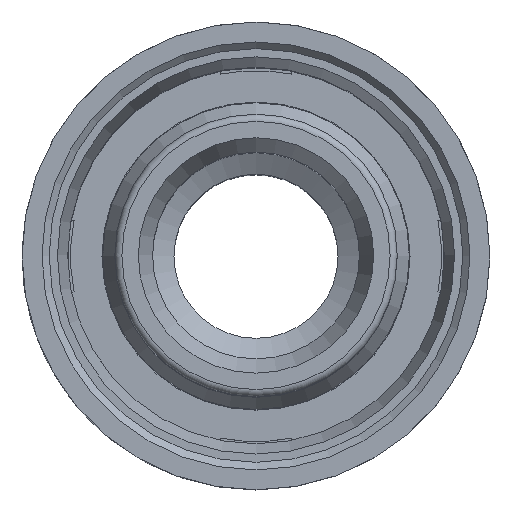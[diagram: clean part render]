
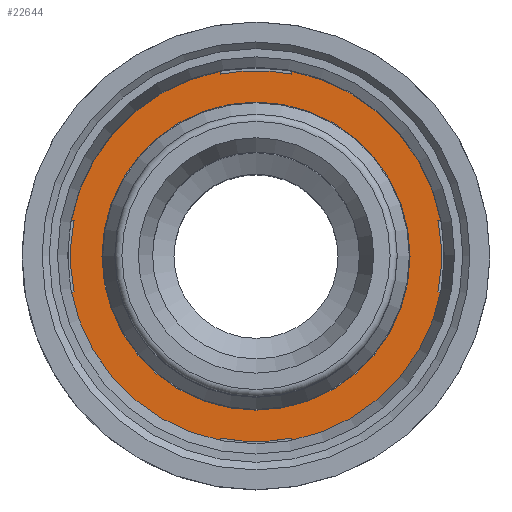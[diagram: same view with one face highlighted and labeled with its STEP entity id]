
A CAD part, top view. The second image highlights one B-rep face of the part: STEP entity #22644.
In plain terms, the highlighted planar face has unit normal (0, 0, 1) as drawn and (0, 0, -1) by its records, which use the part's own axes.
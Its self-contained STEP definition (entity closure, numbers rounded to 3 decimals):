
#136=FACE_BOUND('',#5709,.T.);
#310=PLANE('',#24177);
#859=LINE('',#34599,#2212);
#862=LINE('',#34610,#2215);
#869=LINE('',#34625,#2222);
#875=LINE('',#34641,#2228);
#881=LINE('',#34654,#2234);
#887=LINE('',#34667,#2240);
#893=LINE('',#34683,#2246);
#899=LINE('',#34699,#2252);
#2212=VECTOR('',#26044,10.);
#2215=VECTOR('',#26055,10.);
#2222=VECTOR('',#26064,10.);
#2228=VECTOR('',#26078,10.);
#2234=VECTOR('',#26086,10.);
#2240=VECTOR('',#26094,10.);
#2246=VECTOR('',#26108,10.);
#2252=VECTOR('',#26122,10.);
#4386=FACE_OUTER_BOUND('',#5708,.T.);
#5708=EDGE_LOOP('',(#17125,#17126,#17127,#17128,#17129,#17130,#17131,#17132,
#17133,#17134,#17135,#17136,#17137,#17138,#17139,#17140));
#5709=EDGE_LOOP('',(#17141,#17142));
#6959=CIRCLE('',#24117,13.);
#6961=CIRCLE('',#24122,13.);
#6963=CIRCLE('',#24128,13.);
#6965=CIRCLE('',#24132,13.);
#6982=CIRCLE('',#24156,13.2);
#6983=CIRCLE('',#24157,13.2);
#6984=CIRCLE('',#24158,13.2);
#6987=CIRCLE('',#24161,13.2);
#6996=CIRCLE('',#24175,10.8);
#6997=CIRCLE('',#24176,10.8);
#9606=VERTEX_POINT('',#34589);
#9610=VERTEX_POINT('',#34597);
#9611=VERTEX_POINT('',#34601);
#9613=VERTEX_POINT('',#34607);
#9620=VERTEX_POINT('',#34622);
#9621=VERTEX_POINT('',#34624);
#9623=VERTEX_POINT('',#34630);
#9627=VERTEX_POINT('',#34640);
#9632=VERTEX_POINT('',#34651);
#9633=VERTEX_POINT('',#34653);
#9638=VERTEX_POINT('',#34664);
#9639=VERTEX_POINT('',#34666);
#9644=VERTEX_POINT('',#34680);
#9645=VERTEX_POINT('',#34682);
#9647=VERTEX_POINT('',#34688);
#9651=VERTEX_POINT('',#34698);
#9666=VERTEX_POINT('',#34759);
#9667=VERTEX_POINT('',#34761);
#12349=EDGE_CURVE('',#9606,#9610,#859,.T.);
#12350=EDGE_CURVE('',#9610,#9611,#6959,.T.);
#12354=EDGE_CURVE('',#9611,#9613,#862,.T.);
#12361=EDGE_CURVE('',#9621,#9620,#869,.T.);
#12364=EDGE_CURVE('',#9623,#9621,#6961,.T.);
#12369=EDGE_CURVE('',#9627,#9623,#875,.T.);
#12375=EDGE_CURVE('',#9633,#9632,#881,.T.);
#12381=EDGE_CURVE('',#9639,#9638,#887,.T.);
#12384=EDGE_CURVE('',#9632,#9639,#6963,.T.);
#12389=EDGE_CURVE('',#9645,#9644,#893,.T.);
#12392=EDGE_CURVE('',#9647,#9645,#6965,.T.);
#12397=EDGE_CURVE('',#9651,#9647,#899,.T.);
#12415=EDGE_CURVE('',#9606,#9620,#6982,.T.);
#12416=EDGE_CURVE('',#9627,#9644,#6983,.T.);
#12417=EDGE_CURVE('',#9651,#9638,#6984,.T.);
#12421=EDGE_CURVE('',#9633,#9613,#6987,.T.);
#12433=EDGE_CURVE('',#9667,#9666,#6996,.T.);
#12434=EDGE_CURVE('',#9666,#9667,#6997,.T.);
#17125=ORIENTED_EDGE('',*,*,#12354,.T.);
#17126=ORIENTED_EDGE('',*,*,#12421,.F.);
#17127=ORIENTED_EDGE('',*,*,#12375,.T.);
#17128=ORIENTED_EDGE('',*,*,#12384,.T.);
#17129=ORIENTED_EDGE('',*,*,#12381,.T.);
#17130=ORIENTED_EDGE('',*,*,#12417,.F.);
#17131=ORIENTED_EDGE('',*,*,#12397,.T.);
#17132=ORIENTED_EDGE('',*,*,#12392,.T.);
#17133=ORIENTED_EDGE('',*,*,#12389,.T.);
#17134=ORIENTED_EDGE('',*,*,#12416,.F.);
#17135=ORIENTED_EDGE('',*,*,#12369,.T.);
#17136=ORIENTED_EDGE('',*,*,#12364,.T.);
#17137=ORIENTED_EDGE('',*,*,#12361,.T.);
#17138=ORIENTED_EDGE('',*,*,#12415,.F.);
#17139=ORIENTED_EDGE('',*,*,#12349,.T.);
#17140=ORIENTED_EDGE('',*,*,#12350,.T.);
#17141=ORIENTED_EDGE('',*,*,#12433,.T.);
#17142=ORIENTED_EDGE('',*,*,#12434,.T.);
#22644=ADVANCED_FACE('',(#4386,#136),#310,.T.);
#24117=AXIS2_PLACEMENT_3D('',#34602,#26047,#26048);
#24122=AXIS2_PLACEMENT_3D('',#34631,#26069,#26070);
#24128=AXIS2_PLACEMENT_3D('',#34672,#26099,#26100);
#24132=AXIS2_PLACEMENT_3D('',#34689,#26113,#26114);
#24156=AXIS2_PLACEMENT_3D('',#34727,#26167,#26168);
#24157=AXIS2_PLACEMENT_3D('',#34728,#26169,#26170);
#24158=AXIS2_PLACEMENT_3D('',#34729,#26171,#26172);
#24161=AXIS2_PLACEMENT_3D('',#34735,#26178,#26179);
#24175=AXIS2_PLACEMENT_3D('',#34762,#26209,#26210);
#24176=AXIS2_PLACEMENT_3D('',#34763,#26211,#26212);
#24177=AXIS2_PLACEMENT_3D('',#34764,#26213,#26214);
#26044=DIRECTION('',(0.982,0.191,0.));
#26047=DIRECTION('center_axis',(0.,0.,-1.));
#26048=DIRECTION('ref_axis',(0.981,-0.192,0.));
#26055=DIRECTION('',(-0.982,0.191,0.));
#26064=DIRECTION('',(-0.191,-0.982,0.));
#26069=DIRECTION('center_axis',(0.,0.,-1.));
#26070=DIRECTION('ref_axis',(0.192,0.981,0.));
#26078=DIRECTION('',(-0.191,0.982,0.));
#26086=DIRECTION('',(0.191,-0.982,0.));
#26094=DIRECTION('',(0.191,0.982,0.));
#26099=DIRECTION('center_axis',(0.,0.,-1.));
#26100=DIRECTION('ref_axis',(-0.192,-0.981,0.));
#26108=DIRECTION('',(0.982,-0.191,0.));
#26113=DIRECTION('center_axis',(0.,0.,-1.));
#26114=DIRECTION('ref_axis',(-0.981,0.192,0.));
#26122=DIRECTION('',(-0.982,-0.191,0.));
#26167=DIRECTION('center_axis',(0.,0.,1.));
#26168=DIRECTION('ref_axis',(1.,0.,0.));
#26169=DIRECTION('center_axis',(0.,0.,1.));
#26170=DIRECTION('ref_axis',(1.,0.,0.));
#26171=DIRECTION('center_axis',(0.,0.,1.));
#26172=DIRECTION('ref_axis',(1.,0.,0.));
#26178=DIRECTION('center_axis',(0.,0.,1.));
#26179=DIRECTION('ref_axis',(1.,0.,0.));
#26209=DIRECTION('center_axis',(0.,0.,1.));
#26210=DIRECTION('ref_axis',(1.,0.,0.));
#26211=DIRECTION('center_axis',(0.,0.,1.));
#26212=DIRECTION('ref_axis',(1.,0.,0.));
#26213=DIRECTION('center_axis',(0.,0.,-1.));
#26214=DIRECTION('ref_axis',(-1.,0.,0.));
#34589=CARTESIAN_POINT('',(-12.954,-2.538,6.519));
#34597=CARTESIAN_POINT('',(-12.757,-2.5,6.519));
#34599=CARTESIAN_POINT('',(-7.613,-1.5,6.519));
#34601=CARTESIAN_POINT('',(-12.757,2.5,6.519));
#34602=CARTESIAN_POINT('Origin',(0.,0.,6.519));
#34607=CARTESIAN_POINT('',(-12.954,2.538,6.519));
#34610=CARTESIAN_POINT('',(-7.214,1.422,6.519));
#34622=CARTESIAN_POINT('',(-2.538,-12.954,6.519));
#34624=CARTESIAN_POINT('',(-2.5,-12.757,6.519));
#34625=CARTESIAN_POINT('',(-2.899,-14.81,6.519));
#34630=CARTESIAN_POINT('',(2.5,-12.757,6.519));
#34631=CARTESIAN_POINT('Origin',(0.,0.,6.519));
#34640=CARTESIAN_POINT('',(2.538,-12.954,6.519));
#34641=CARTESIAN_POINT('',(2.496,-12.736,6.519));
#34651=CARTESIAN_POINT('',(-2.5,12.757,6.519));
#34653=CARTESIAN_POINT('',(-2.538,12.954,6.519));
#34654=CARTESIAN_POINT('',(-0.024,0.017,6.519));
#34664=CARTESIAN_POINT('',(2.538,12.954,6.519));
#34666=CARTESIAN_POINT('',(2.5,12.757,6.519));
#34667=CARTESIAN_POINT('',(0.427,2.09,6.519));
#34672=CARTESIAN_POINT('Origin',(0.,0.,6.519));
#34680=CARTESIAN_POINT('',(12.954,-2.538,6.519));
#34682=CARTESIAN_POINT('',(12.757,-2.5,6.519));
#34683=CARTESIAN_POINT('',(9.686,-1.903,6.519));
#34688=CARTESIAN_POINT('',(12.757,2.5,6.519));
#34689=CARTESIAN_POINT('Origin',(0.,0.,6.519));
#34698=CARTESIAN_POINT('',(12.954,2.538,6.519));
#34699=CARTESIAN_POINT('',(5.141,1.019,6.519));
#34727=CARTESIAN_POINT('Origin',(0.,0.,6.519));
#34728=CARTESIAN_POINT('Origin',(0.,0.,6.519));
#34729=CARTESIAN_POINT('Origin',(0.,0.,6.519));
#34735=CARTESIAN_POINT('Origin',(0.,0.,6.519));
#34759=CARTESIAN_POINT('',(0.,10.8,6.519));
#34761=CARTESIAN_POINT('',(0.,-10.8,6.519));
#34762=CARTESIAN_POINT('Origin',(0.,0.,6.519));
#34763=CARTESIAN_POINT('Origin',(0.,0.,6.519));
#34764=CARTESIAN_POINT('Origin',(0.,-13.2,6.519));
